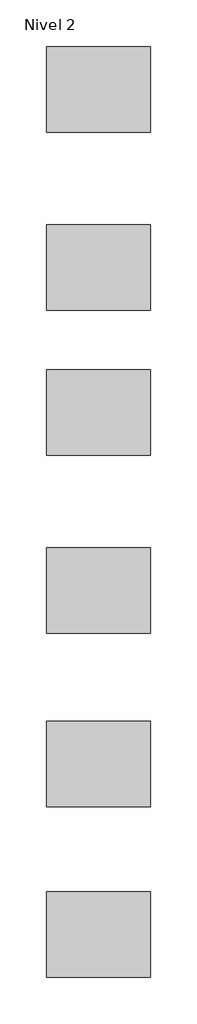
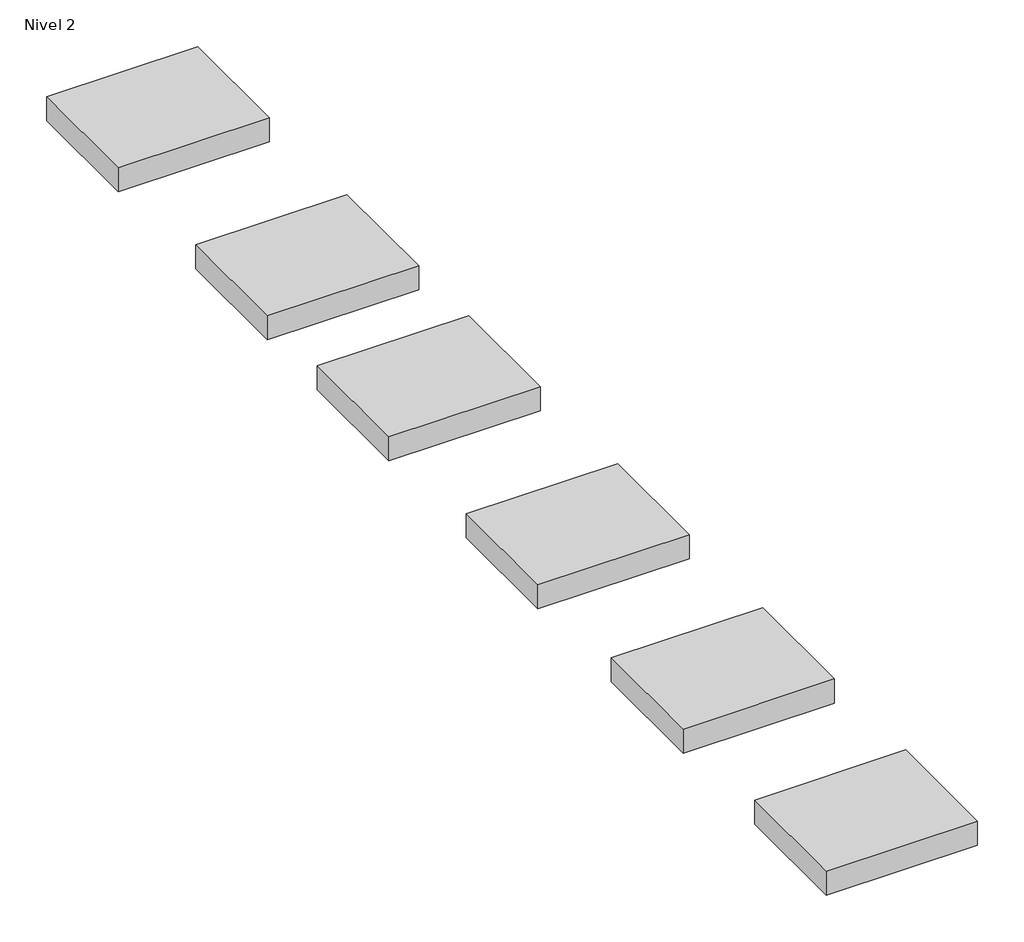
# One storey: 6 furniture elements.
"""IFC4 building model written with IfcOpenShell, lengths in millimetres."""

from ifc_helpers import new_model, si_unit, origin, place, context, project, spatial, transform, mapped, element, save
from components import furniture_fc90d0a3

model = new_model("IFC4")

# Units and contexts
model_context = context("Model", 3, world=origin())
ifc_project = project(units=[si_unit("LENGTHUNIT", "METRE", prefix="MILLI")], contexts=[model_context])

# Site, building, storey
site = spatial("IfcSite", under=ifc_project)
building = spatial("IfcBuilding", under=site)
storey = spatial("IfcBuildingStorey", under=building, Name="Nivel 2", Elevation=4000.0)

# Furniture
placement = place(None, origin())
furniture_shape = furniture_fc90d0a3(model_context)
element("IfcFurniture", 1, ObjectType="Waikiki : Waikiki 03", at=placement, inside=storey, context=model_context, shape_type="MappedRepresentation", body=[
    mapped(furniture_shape, transform((-9674.6867993, 9760.919512, 4000.0), x_axis=(1.0, 0.0, 0.0), y_axis=(0.0, 1.0, 0.0), z_axis=(0.0, 0.0, 1.0))),
])
element("IfcFurniture", 2, ObjectType="Waikiki : Waikiki 10", at=placement, inside=storey, context=model_context, shape_type="MappedRepresentation", body=[
    mapped(furniture_shape, transform((-9674.6867993, 7228.1002461, 4000.0), x_axis=(1.0, 0.0, 0.0), y_axis=(0.0, 1.0, 0.0), z_axis=(0.0, 0.0, 1.0))),
])
element("IfcFurniture", 3, ObjectType="Waikiki : Waikiki 20", at=placement, inside=storey, context=model_context, shape_type="MappedRepresentation", body=[
    mapped(furniture_shape, transform((-9674.6867993, 5160.919512, 4000.0), x_axis=(1.0, 0.0, 0.0), y_axis=(0.0, 1.0, 0.0), z_axis=(0.0, 0.0, 1.0))),
])
element("IfcFurniture", 4, ObjectType="Waikiki : Waikiki 21", at=placement, inside=storey, context=model_context, shape_type="MappedRepresentation", body=[
    mapped(furniture_shape, transform((-9674.6867993, 2628.1002461, 4000.0), x_axis=(1.0, 0.0, 0.0), y_axis=(0.0, 1.0, 0.0), z_axis=(0.0, 0.0, 1.0))),
])
element("IfcFurniture", 5, ObjectType="Waikiki : Waikiki 60", at=placement, inside=storey, context=model_context, shape_type="MappedRepresentation", body=[
    mapped(furniture_shape, transform((-9674.6867993, -2268.6836678, 4000.0), x_axis=(1.0, 0.0, 0.0), y_axis=(0.0, 1.0, 0.0), z_axis=(0.0, 0.0, 1.0))),
])
element("IfcFurniture", 6, ObjectType="Waikiki : Waikiki 50", at=placement, inside=storey, context=model_context, shape_type="MappedRepresentation", body=[
    mapped(furniture_shape, transform((-9674.6867993, 162.8228274, 4000.0), x_axis=(1.0, 0.0, 0.0), y_axis=(0.0, 1.0, 0.0), z_axis=(0.0, 0.0, 1.0))),
])

save(model, "model.ifc")
